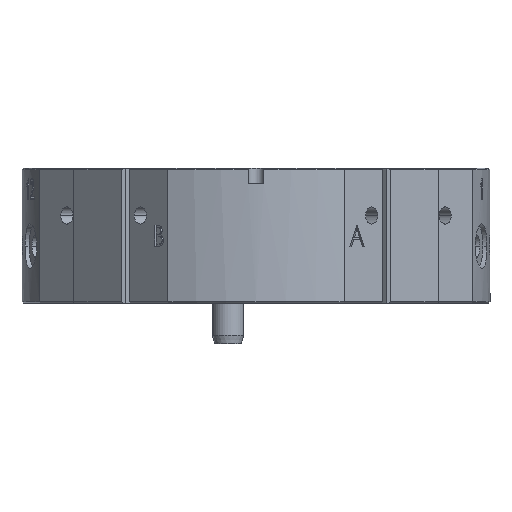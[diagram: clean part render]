
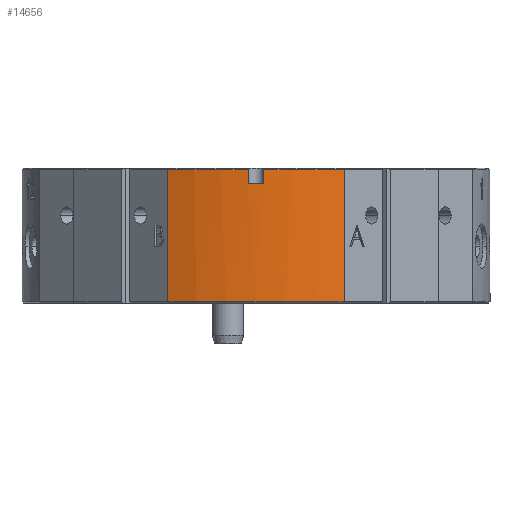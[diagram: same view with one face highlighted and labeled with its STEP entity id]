
A CAD part, front view. The second image highlights one B-rep face of the part: STEP entity #14656.
In plain terms, the highlighted cylindrical face has radius 45 mm (diameter 90 mm), a partial arc.
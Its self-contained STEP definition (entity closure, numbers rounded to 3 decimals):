
#23 = VECTOR ( 'NONE', #35688, 1000. ) ;
#550 = LINE ( 'NONE', #41868, #23 ) ;
#1551 = AXIS2_PLACEMENT_3D ( 'NONE', #36134, #13491, #39872 ) ;
#2245 = CARTESIAN_POINT ( 'NONE',  ( 0., -45., -25.7 ) ) ;
#2407 = AXIS2_PLACEMENT_3D ( 'NONE', #41979, #41944, #41939 ) ;
#2411 = CYLINDRICAL_SURFACE ( 'NONE', #9774, 45. ) ;
#3564 = ORIENTED_EDGE ( 'NONE', *, *, #13729, .T. ) ;
#3651 = VERTEX_POINT ( 'NONE', #46395 ) ;
#3879 = DIRECTION ( 'NONE',  ( 1., 0., 0. ) ) ;
#3926 = DIRECTION ( 'NONE',  ( 0., 0., -1. ) ) ;
#3984 = CARTESIAN_POINT ( 'NONE',  ( 0., 0., -3. ) ) ;
#4914 = ORIENTED_EDGE ( 'NONE', *, *, #11029, .T. ) ;
#6800 = EDGE_CURVE ( 'NONE', #36651, #10451, #19007, .T. ) ;
#6844 = AXIS2_PLACEMENT_3D ( 'NONE', #13539, #39920, #17403 ) ;
#6883 = CARTESIAN_POINT ( 'NONE',  ( 0., 0., -25.7 ) ) ;
#8157 = CARTESIAN_POINT ( 'NONE',  ( 1.5, -44.975, -3. ) ) ;
#9769 = VERTEX_POINT ( 'NONE', #20691 ) ;
#9774 = AXIS2_PLACEMENT_3D ( 'NONE', #20545, #20873, #20535 ) ;
#10050 = CIRCLE ( 'NONE', #6844, 45. ) ;
#10451 = VERTEX_POINT ( 'NONE', #8157 ) ;
#10680 = DIRECTION ( 'NONE',  ( 1., 0., 0. ) ) ;
#10754 = LINE ( 'NONE', #26807, #28539 ) ;
#11029 = EDGE_CURVE ( 'NONE', #25918, #9769, #550, .T. ) ;
#11754 = ORIENTED_EDGE ( 'NONE', *, *, #21372, .T. ) ;
#12234 = CARTESIAN_POINT ( 'NONE',  ( -1.5, -44.975, -3. ) ) ;
#13491 = DIRECTION ( 'NONE',  ( 0., 0., -1. ) ) ;
#13510 = EDGE_LOOP ( 'NONE', ( #4914, #42454, #35311, #41160, #11754, #3564, #28089, #31247, #36502 ) ) ;
#13539 = CARTESIAN_POINT ( 'NONE',  ( 0., 0., -0.3 ) ) ;
#13729 = EDGE_CURVE ( 'NONE', #41917, #16742, #17318, .T. ) ;
#14656 = ADVANCED_FACE ( 'NONE', ( #19639 ), #2411, .T. ) ;
#15306 = EDGE_CURVE ( 'NONE', #10451, #47557, #24513, .T. ) ;
#16742 = VERTEX_POINT ( 'NONE', #17504 ) ;
#17318 = CIRCLE ( 'NONE', #2407, 45. ) ;
#17403 = DIRECTION ( 'NONE',  ( 1., 0., 0. ) ) ;
#17504 = CARTESIAN_POINT ( 'NONE',  ( -16.941, -41.689, -0.3 ) ) ;
#18263 = VECTOR ( 'NONE', #20367, 1000. ) ;
#19007 = LINE ( 'NONE', #20524, #18263 ) ;
#19639 = FACE_OUTER_BOUND ( 'NONE', #13510, .T. ) ;
#20273 = CARTESIAN_POINT ( 'NONE',  ( 16.941, -41.689, -25.7 ) ) ;
#20367 = DIRECTION ( 'NONE',  ( 0., 0., -1. ) ) ;
#20524 = CARTESIAN_POINT ( 'NONE',  ( 1.5, -44.975, -26. ) ) ;
#20535 = DIRECTION ( 'NONE',  ( 1., 0., 0. ) ) ;
#20545 = CARTESIAN_POINT ( 'NONE',  ( 0., 0., -26. ) ) ;
#20691 = CARTESIAN_POINT ( 'NONE',  ( 16.941, -41.689, -0.3 ) ) ;
#20873 = DIRECTION ( 'NONE',  ( 0., 0., 1. ) ) ;
#21372 = EDGE_CURVE ( 'NONE', #47557, #41917, #41966, .T. ) ;
#24513 = CIRCLE ( 'NONE', #33245, 45. ) ;
#25918 = VERTEX_POINT ( 'NONE', #20273 ) ;
#26807 = CARTESIAN_POINT ( 'NONE',  ( -16.941, -41.689, -26. ) ) ;
#28089 = ORIENTED_EDGE ( 'NONE', *, *, #41311, .T. ) ;
#28539 = VECTOR ( 'NONE', #38093, 1000. ) ;
#29065 = CIRCLE ( 'NONE', #35206, 45. ) ;
#31247 = ORIENTED_EDGE ( 'NONE', *, *, #38808, .F. ) ;
#32304 = EDGE_CURVE ( 'NONE', #25918, #46662, #38817, .T. ) ;
#33245 = AXIS2_PLACEMENT_3D ( 'NONE', #3984, #3926, #3879 ) ;
#33346 = DIRECTION ( 'NONE',  ( 0., 0., -1. ) ) ;
#33669 = CARTESIAN_POINT ( 'NONE',  ( -1.5, -44.975, -26. ) ) ;
#35014 = DIRECTION ( 'NONE',  ( 0., 0., 1. ) ) ;
#35206 = AXIS2_PLACEMENT_3D ( 'NONE', #6883, #33346, #10680 ) ;
#35280 = CARTESIAN_POINT ( 'NONE',  ( -1.5, -44.975, -0.3 ) ) ;
#35311 = ORIENTED_EDGE ( 'NONE', *, *, #6800, .T. ) ;
#35688 = DIRECTION ( 'NONE',  ( 0., 0., 1. ) ) ;
#36134 = CARTESIAN_POINT ( 'NONE',  ( 0., 0., -25.7 ) ) ;
#36502 = ORIENTED_EDGE ( 'NONE', *, *, #32304, .F. ) ;
#36651 = VERTEX_POINT ( 'NONE', #38521 ) ;
#38093 = DIRECTION ( 'NONE',  ( 0., 0., -1. ) ) ;
#38521 = CARTESIAN_POINT ( 'NONE',  ( 1.5, -44.975, -0.3 ) ) ;
#38808 = EDGE_CURVE ( 'NONE', #46662, #3651, #29065, .T. ) ;
#38817 = CIRCLE ( 'NONE', #1551, 45. ) ;
#39872 = DIRECTION ( 'NONE',  ( 1., 0., 0. ) ) ;
#39920 = DIRECTION ( 'NONE',  ( 0., 0., -1. ) ) ;
#41160 = ORIENTED_EDGE ( 'NONE', *, *, #15306, .T. ) ;
#41311 = EDGE_CURVE ( 'NONE', #16742, #3651, #10754, .T. ) ;
#41868 = CARTESIAN_POINT ( 'NONE',  ( 16.941, -41.689, -26. ) ) ;
#41917 = VERTEX_POINT ( 'NONE', #35280 ) ;
#41939 = DIRECTION ( 'NONE',  ( 1., 0., 0. ) ) ;
#41944 = DIRECTION ( 'NONE',  ( 0., 0., -1. ) ) ;
#41966 = LINE ( 'NONE', #33669, #44459 ) ;
#41979 = CARTESIAN_POINT ( 'NONE',  ( 0., 0., -0.3 ) ) ;
#42382 = EDGE_CURVE ( 'NONE', #9769, #36651, #10050, .T. ) ;
#42454 = ORIENTED_EDGE ( 'NONE', *, *, #42382, .T. ) ;
#44459 = VECTOR ( 'NONE', #35014, 1000. ) ;
#46395 = CARTESIAN_POINT ( 'NONE',  ( -16.941, -41.689, -25.7 ) ) ;
#46662 = VERTEX_POINT ( 'NONE', #2245 ) ;
#47557 = VERTEX_POINT ( 'NONE', #12234 ) ;
